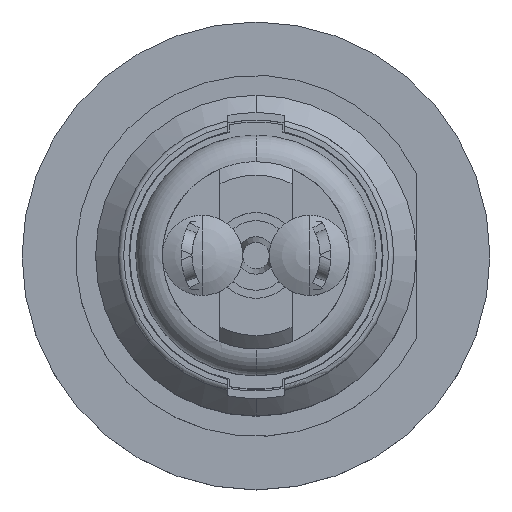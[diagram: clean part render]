
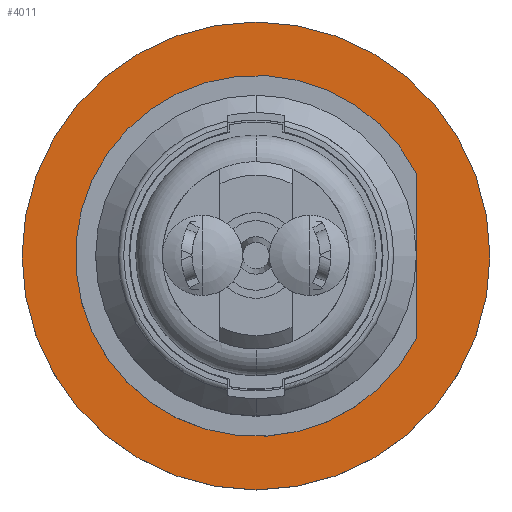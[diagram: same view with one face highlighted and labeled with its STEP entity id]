
A CAD part, top view. The second image highlights one B-rep face of the part: STEP entity #4011.
In plain terms, the highlighted planar face has unit normal (0, 0, 1).
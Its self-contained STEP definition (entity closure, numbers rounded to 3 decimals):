
#869=CARTESIAN_POINT('',(0.,0.,0.));
#870=DIRECTION('',(0.,0.,-1.));
#871=DIRECTION('',(0.889,-0.458,0.));
#872=AXIS2_PLACEMENT_3D('',#869,#870,#871);
#879=DIRECTION('',(0.,1.,0.));
#880=VECTOR('',#879,6.185);
#881=CARTESIAN_POINT('',(6.,-3.092,0.));
#882=LINE('',#881,#880);
#883=CARTESIAN_POINT('',(0.,0.,0.));
#884=DIRECTION('',(0.,0.,1.));
#885=DIRECTION('',(0.,-1.,0.));
#886=AXIS2_PLACEMENT_3D('',#883,#884,#885);
#896=CARTESIAN_POINT('',(0.,0.,0.));
#897=DIRECTION('',(0.,0.,-1.));
#898=DIRECTION('',(0.,-1.,0.));
#899=AXIS2_PLACEMENT_3D('',#896,#897,#898);
#2636=CARTESIAN_POINT('',(0.,-8.75,0.));
#2638=VERTEX_POINT('',#2636);
#2640=CARTESIAN_POINT('',(0.,8.75,0.));
#2642=VERTEX_POINT('',#2640);
#2714=CARTESIAN_POINT('',(6.,-3.092,0.));
#2715=VERTEX_POINT('',#2714);
#2716=CARTESIAN_POINT('',(6.,3.092,0.));
#2717=VERTEX_POINT('',#2716);
#3996=CARTESIAN_POINT('',(0.,0.,0.));
#3997=DIRECTION('',(0.,0.,1.));
#3998=DIRECTION('',(0.,1.,0.));
#3999=AXIS2_PLACEMENT_3D('',#3996,#3997,#3998);
#4000=PLANE('',#3999);
#4002=ORIENTED_EDGE('',*,*,#4001,.F.);
#4004=ORIENTED_EDGE('',*,*,#4003,.T.);
#4005=EDGE_LOOP('',(#4002,#4004));
#4006=FACE_OUTER_BOUND('',#4005,.F.);
#4007=ORIENTED_EDGE('',*,*,#3988,.F.);
#4008=ORIENTED_EDGE('',*,*,#3976,.T.);
#4009=EDGE_LOOP('',(#4007,#4008));
#4010=FACE_BOUND('',#4009,.F.);
#4011=ADVANCED_FACE('',(#4006,#4010),#4000,.T.);
#873=CIRCLE('',#872,6.75);
#887=CIRCLE('',#886,8.75);
#900=CIRCLE('',#899,8.75);
#3976=EDGE_CURVE('',#2715,#2717,#882,.T.);
#3988=EDGE_CURVE('',#2715,#2717,#873,.T.);
#4001=EDGE_CURVE('',#2638,#2642,#887,.T.);
#4003=EDGE_CURVE('',#2638,#2642,#900,.T.);
